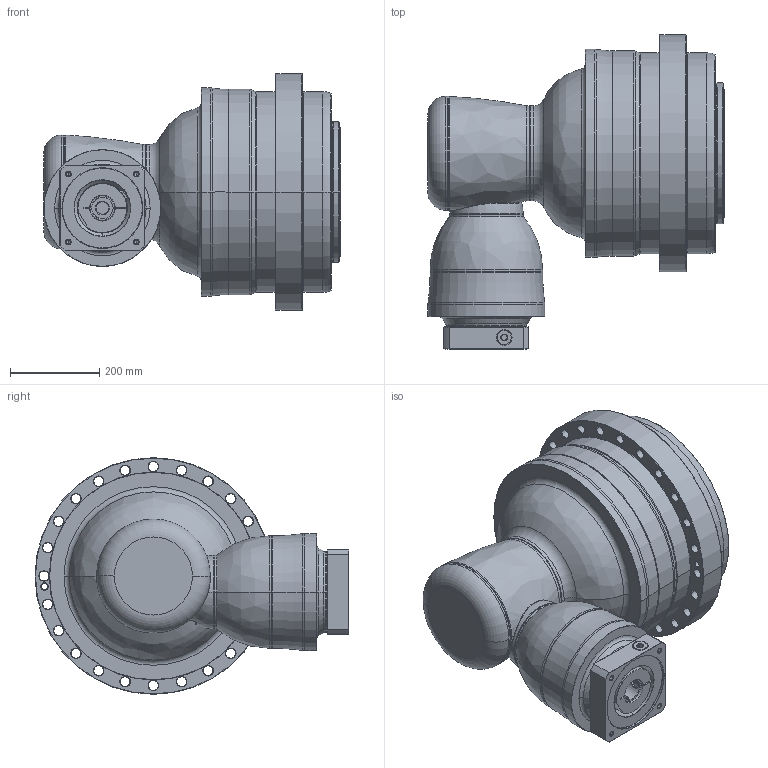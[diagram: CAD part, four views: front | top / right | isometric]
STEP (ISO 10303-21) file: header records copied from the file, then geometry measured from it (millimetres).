
FILE_DESCRIPTION((''),'2;1');
FILE_NAME('APK450_4ST_48-P0409B10201_ASM','2018-10-04T',('D00080'),(''),'PRO/ENGINEER BY PARAMETRIC TECHNOLOGY CORPORATION, 2015240','PRO/ENGINEER BY PARAMETRIC TECHNOLOGY CORPORATION, 2015240','');
FILE_SCHEMA(('CONFIG_CONTROL_DESIGN'));
Length unit declared in the file: millimetre
Products named in the file (13): P1008700002; P1315700001; P1007701001; P1317701401; P1821200001; P0276201003; P0357201103; P1222200001; P0503B00016; P0912654001; P0409B10201; 21711426021; APK450_4ST_48-P0409B10201_ASM
Assembly tree (12 placements, depth 2):
  APK450_4ST_48-P0409B10201_ASM
    P1008700002
    P1315700001
    P1007701001
    P1317701401
    P1821200001
    P0276201003
    P0357201103
    P1222200001
    P0503B00016
    P0912654001
    P0409B10201
    21711426021
Bounding box: 663.5 x 703 x 530 mm (x, y, z)
Volume: 89959567.1 mm3; surface area: 3269720 mm2
Topology: 13 solids, 36 shells, 771 faces, 1747 edges, 1044 vertices
Faces by surface type: cylinder 299, cone 224, plane 122, torus 96, bspline 28, sphere 2
Entity records: 29459 total; most frequent: CARTESIAN_POINT 11498, DIRECTION 4140, ORIENTED_EDGE 3328, AXIS2_PLACEMENT_3D 1775, EDGE_CURVE 1711, VERTEX_POINT 1044, CIRCLE 995, EDGE_LOOP 917
